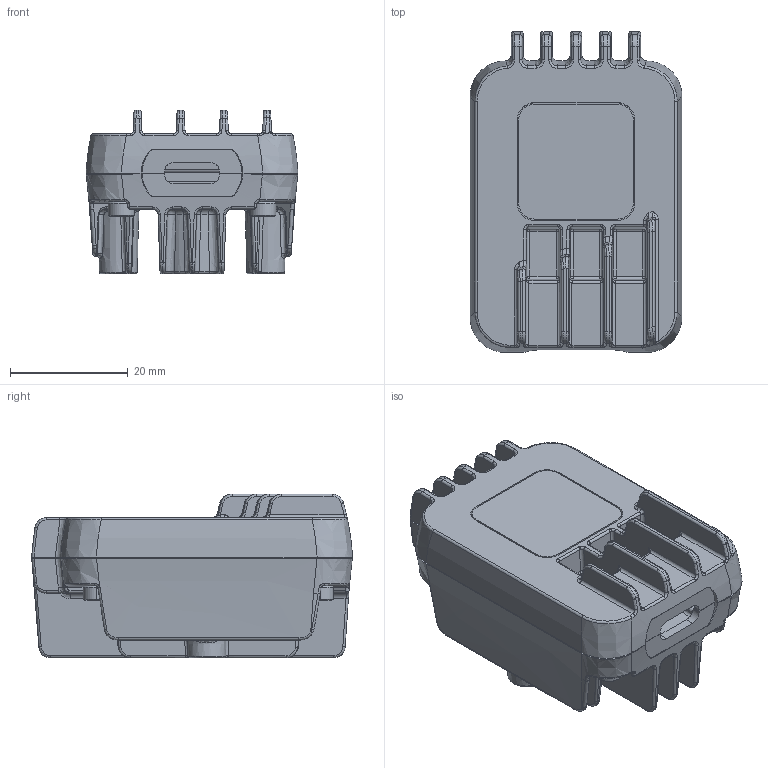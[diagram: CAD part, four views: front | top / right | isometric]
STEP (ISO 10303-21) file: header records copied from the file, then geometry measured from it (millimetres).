
FILE_DESCRIPTION((''),'2;1');
FILE_NAME('010-00001_ASM','2022-01-14T18:19:23',('TWSung'),(''),'CREO PARAMETRIC BY PTC INC, 2020154','CREO PARAMETRIC BY PTC INC, 2020154','');
FILE_SCHEMA(('CONFIG_CONTROL_DESIGN'));
Products named in the file (13): 606-00001_REV3; 609-00001-ADHESIVE; 609-00001-LENS; 609-00001_ASM; OAK-1-FRONT-COVER-SET_ASM; 606-00002_REV3; OAK-1-SILKSCREEN; 606-00002_ASM; 612-00003; 612-00002; 602-00001; 611-00013; 010-00001_ASM
Assembly tree (15 placements, depth 4):
  010-00001_ASM
    OAK-1-FRONT-COVER-SET_ASM
      606-00001_REV3
      609-00001_ASM
        609-00001-ADHESIVE
        609-00001-LENS
    606-00002_ASM
      606-00002_REV3
      OAK-1-SILKSCREEN
    612-00003
    612-00002
    602-00001  x4
    611-00013
Bounding box: 36 x 54.5 x 27.8 mm (x, y, z)
Volume: 16397.2 mm3; surface area: 22136.4 mm2
Topology: 11 solids, 11 shells, 2524 faces, 6227 edges, 3668 vertices
Faces by surface type: cylinder 1021, bspline 678, cone 358, plane 304, torus 103, sphere 39, extrusion 21
Entity records: 132244 total; most frequent: CARTESIAN_POINT 86678, ORIENTED_EDGE 10304, DIRECTION 8158, EDGE_CURVE 5152, AXIS2_PLACEMENT_3D 3173, VERTEX_POINT 3008, EDGE_LOOP 2206, FACE_OUTER_BOUND 2176
